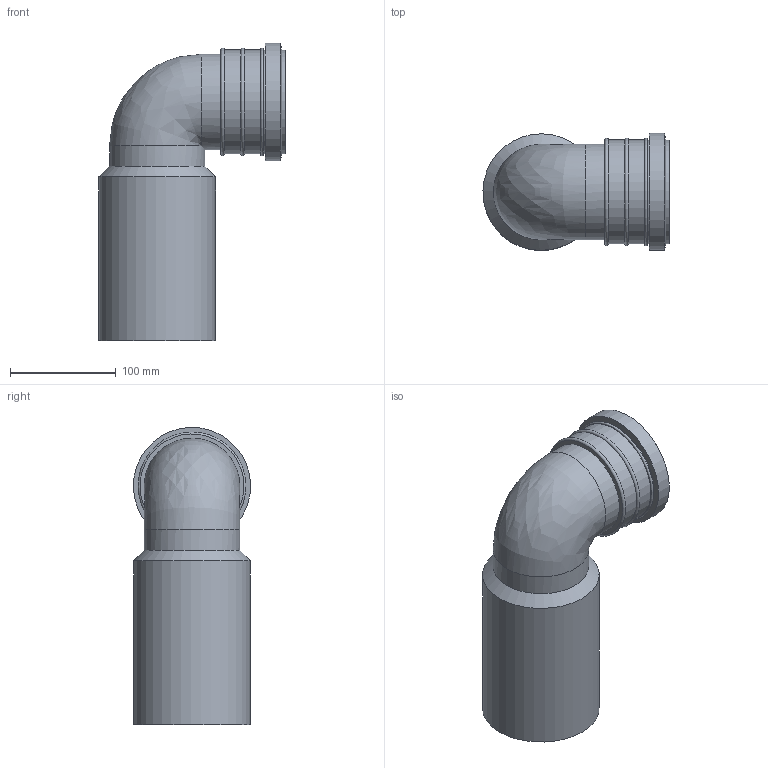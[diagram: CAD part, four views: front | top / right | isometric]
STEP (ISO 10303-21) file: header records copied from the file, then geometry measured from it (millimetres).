
FILE_DESCRIPTION(/* description */ ('START RECORD GO HERE. '),/* implementation_level */ '2;1');
FILE_NAME(/* name */ 'C:\Geberit-Teile\Export 2019\367.070.16.1\stp\367070.stp',/* time_stamp */ '2019-05-09T13:37:24+02:00',/* author */ ('JANAN'),/* organization */ ('Geberit'),/* preprocessor_version */ 'ST-DEVELOPER v16.13',/* originating_system */ 'Autodesk Inventor 2018',/* authorisation */ '');
FILE_SCHEMA (('AUTOMOTIVE_DESIGN { 1 0 10303 214 3 1 1 }'));
Length unit declared in the file: millimetre
Products named in the file (1): AnBogen PE-HD 90G d110/90 L22.5/12.1
Bounding box: 176.18 x 110.97 x 281.48 mm (x, y, z)
Volume: 444608.1 mm3; surface area: 219085.6 mm2
Topology: 1 solids, 1 shells, 38 faces, 86 edges, 53 vertices
Faces by surface type: cylinder 15, plane 7, cone 6, bspline 6, torus 4
Full cylindrical faces by diameter (mm): 83.025 x2, 83.026 x1, 90.375 x2, 91.45 x1, 92.2 x1, 98 x1, 98.5 x3, 101.35 x1, 104.3 x1, 110.4 x1, 111 x1
Entity records: 1911 total; most frequent: CARTESIAN_POINT 1154, DIRECTION 144, ORIENTED_EDGE 100, AXIS2_PLACEMENT_3D 71, EDGE_LOOP 68, EDGE_CURVE 50, VERTEX_POINT 42, STYLED_ITEM 39
